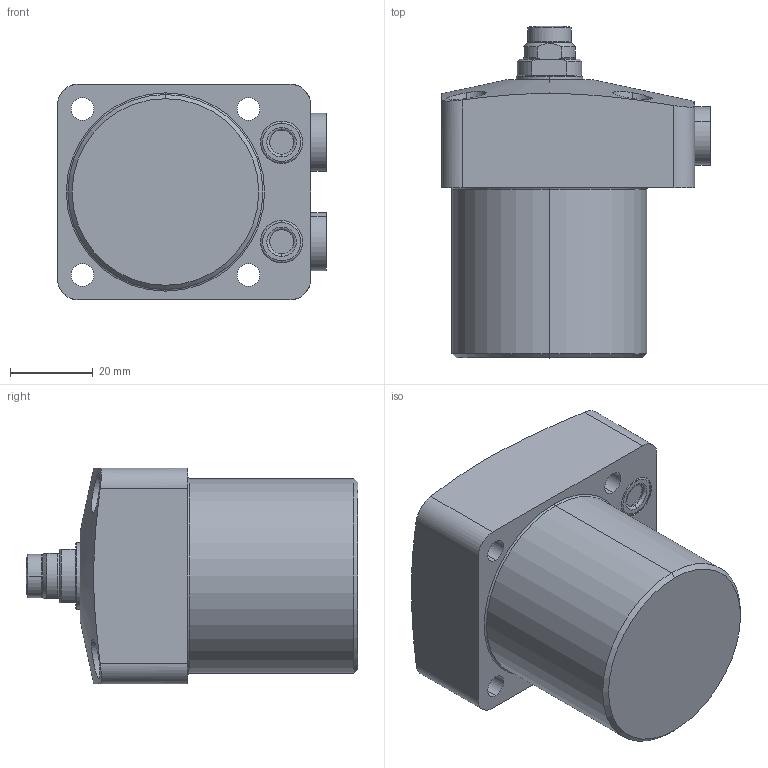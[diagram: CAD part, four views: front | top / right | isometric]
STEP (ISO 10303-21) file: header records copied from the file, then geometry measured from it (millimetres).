
FILE_DESCRIPTION(/* description */ (''),/* implementation_level */ '2;1');
FILE_NAME(/* name */ 'FSC06-M.stp',/* time_stamp */ '2025-03-10T14:11:41+08:00',/* author */ (''),/* organization */ (''),/* preprocessor_version */ 'ST-DEVELOPER v16.7',/* originating_system */ 'SIEMENS PLM Software NX 12.0',/* authorisation */ '');
FILE_SCHEMA (('AUTOMOTIVE_DESIGN { 1 0 10303 214 3 1 1 1 }'));
Length unit declared in the file: millimetre
Products named in the file (9): XLC-M10_Oring; XLC-M10SP_pin; XLC-M10SP_contactbolt; XLC-M10SP_pad; FSC06-02; FSC06-04; FSC06-01; XLC-M10_-M; FSC06_stp
Assembly tree (9 placements, depth 3):
  FSC06_stp
    FSC06-01
    FSC06-04  x2
    FSC06-02
    XLC-M10_-M
      XLC-M10SP_pad
      XLC-M10SP_contactbolt
      XLC-M10SP_pin
      XLC-M10_Oring
Bounding box: 64.8 x 80 x 52 mm (x, y, z)
Volume: 142902.2 mm3; surface area: 24961.4 mm2
Topology: 8 solids, 10 shells, 250 faces, 552 edges, 342 vertices
Faces by surface type: cylinder 98, plane 64, cone 42, torus 40, sphere 6
Entity records: 7118 total; most frequent: CARTESIAN_POINT 1622, DIRECTION 1222, ORIENTED_EDGE 1020, AXIS2_PLACEMENT_3D 528, EDGE_CURVE 510, VERTEX_POINT 316, CIRCLE 288, EDGE_LOOP 272
